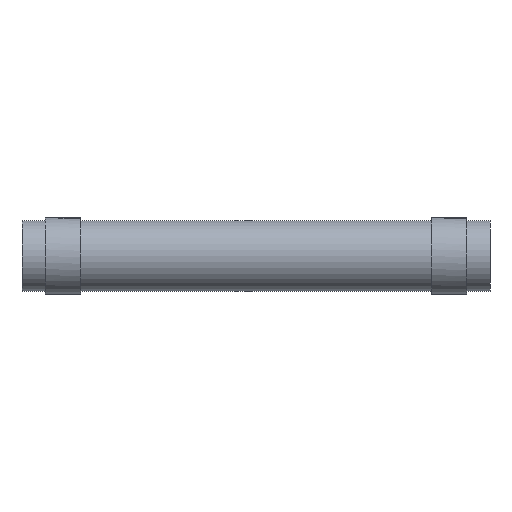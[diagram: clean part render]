
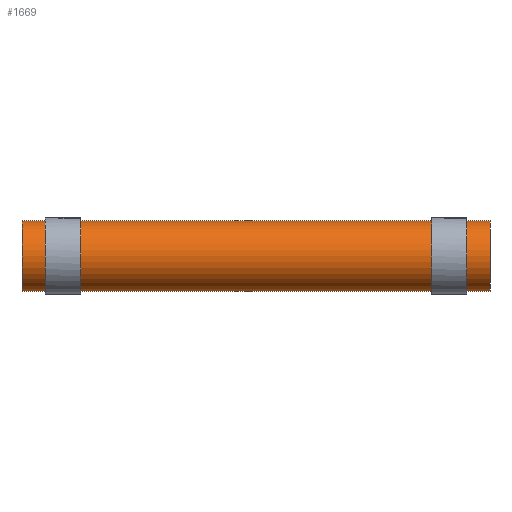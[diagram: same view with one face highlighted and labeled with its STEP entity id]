
A CAD part, front view. The second image highlights one B-rep face of the part: STEP entity #1669.
In plain terms, the highlighted cylindrical face has radius 9.525 mm (diameter 19.05 mm), a partial arc.
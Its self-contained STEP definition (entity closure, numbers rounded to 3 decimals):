
#361 = CARTESIAN_POINT ( 'NONE',  ( 63.5, 0., 0. ) ) ;
#362 = DIRECTION ( 'NONE',  ( -1., 0., 0. ) ) ;
#365 = DIRECTION ( 'NONE',  ( 0., 0., 1. ) ) ;
#430 = CARTESIAN_POINT ( 'NONE',  ( 63.5, 0., 9.525 ) ) ;
#441 = CARTESIAN_POINT ( 'NONE',  ( 63.5, 0., -9.525 ) ) ;
#447 = CARTESIAN_POINT ( 'NONE',  ( -63.5, 0., -9.525 ) ) ;
#456 = CARTESIAN_POINT ( 'NONE',  ( -63.5, 0., 9.525 ) ) ;
#468 = DIRECTION ( 'NONE',  ( -1., 0., 0. ) ) ;
#500 = DIRECTION ( 'NONE',  ( 0., 0., -1. ) ) ;
#501 = DIRECTION ( 'NONE',  ( 1., 0., 0. ) ) ;
#502 = CARTESIAN_POINT ( 'NONE',  ( -63.5, 0., 0. ) ) ;
#503 = CARTESIAN_POINT ( 'NONE',  ( 63.5, 0., -9.525 ) ) ;
#550 = DIRECTION ( 'NONE',  ( 0., 0., -1. ) ) ;
#551 = DIRECTION ( 'NONE',  ( 1., 0., 0. ) ) ;
#552 = CARTESIAN_POINT ( 'NONE',  ( 63.5, 0., 0. ) ) ;
#601 = DIRECTION ( 'NONE',  ( -1., 0., 0. ) ) ;
#603 = CARTESIAN_POINT ( 'NONE',  ( 63.5, 0., 9.525 ) ) ;
#734 = AXIS2_PLACEMENT_3D ( 'NONE', #361, #362, #365 ) ;
#910 = AXIS2_PLACEMENT_3D ( 'NONE', #552, #551, #550 ) ;
#914 = AXIS2_PLACEMENT_3D ( 'NONE', #502, #501, #500 ) ;
#933 = EDGE_CURVE ( 'NONE', #1243, #1007, #1475, .T. ) ;
#949 = EDGE_CURVE ( 'NONE', #1243, #1070, #1513, .T. ) ;
#959 = EDGE_CURVE ( 'NONE', #1007, #1066, #1527, .T. ) ;
#966 = EDGE_CURVE ( 'NONE', #1070, #1066, #1529, .T. ) ;
#1007 = VERTEX_POINT ( 'NONE', #456 ) ;
#1037 = ORIENTED_EDGE ( 'NONE', *, *, #949, .F. ) ;
#1038 = ORIENTED_EDGE ( 'NONE', *, *, #966, .F. ) ;
#1066 = VERTEX_POINT ( 'NONE', #447 ) ;
#1070 = VERTEX_POINT ( 'NONE', #441 ) ;
#1085 = ORIENTED_EDGE ( 'NONE', *, *, #933, .T. ) ;
#1098 = ORIENTED_EDGE ( 'NONE', *, *, #959, .T. ) ;
#1211 = EDGE_LOOP ( 'NONE', ( #1038, #1037, #1085, #1098 ) ) ;
#1243 = VERTEX_POINT ( 'NONE', #430 ) ;
#1475 = LINE ( 'NONE', #603, #1476 ) ;
#1476 = VECTOR ( 'NONE', #601, 1000. ) ;
#1513 = CIRCLE ( 'NONE', #910, 9.525 ) ;
#1527 = CIRCLE ( 'NONE', #914, 9.525 ) ;
#1529 = LINE ( 'NONE', #503, #1537 ) ;
#1534 = FACE_OUTER_BOUND ( 'NONE', #1211, .T. ) ;
#1537 = VECTOR ( 'NONE', #468, 1000. ) ;
#1556 = CYLINDRICAL_SURFACE ( 'NONE', #734, 9.525 ) ;
#1669 = ADVANCED_FACE ( 'NONE', ( #1534 ), #1556, .T. ) ;
